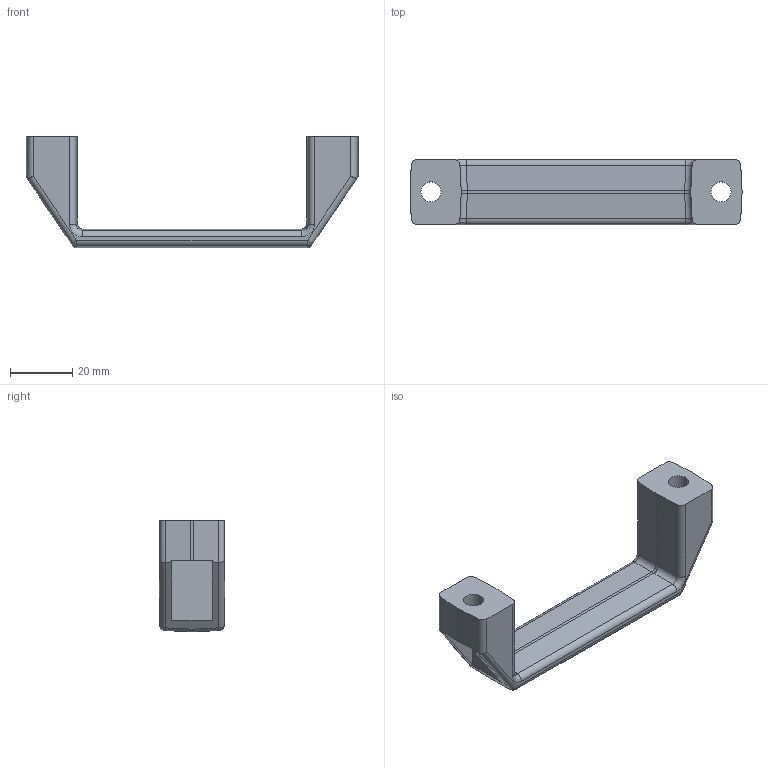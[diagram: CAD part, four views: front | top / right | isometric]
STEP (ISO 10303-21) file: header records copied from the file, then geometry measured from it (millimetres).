
FILE_DESCRIPTION((''),'2;1');
FILE_NAME('MA117','2002-12-27T',('Lipro doo'),('Lipro d.o.o.'),'PRO/ENGINEER BY PARAMETRIC TECHNOLOGY CORPORATION, 2001150','PRO/ENGINEER BY PARAMETRIC TECHNOLOGY CORPORATION, 2001150','');
FILE_SCHEMA(('CONFIG_CONTROL_DESIGN'));
Length unit declared in the file: millimetre
Products named in the file (1): MA117
Bounding box: 107 x 21 x 36 mm (x, y, z)
Volume: 20304 mm3; surface area: 9932.1 mm2
Topology: 1 solids, 1 shells, 78 faces, 190 edges, 116 vertices
Faces by surface type: cylinder 36, plane 34, sphere 4, bspline 4
Entity records: 2552 total; most frequent: CARTESIAN_POINT 712, ORIENTED_EDGE 380, DIRECTION 358, EDGE_CURVE 190, VECTOR 122, LINE 122, AXIS2_PLACEMENT_3D 118, VERTEX_POINT 116
